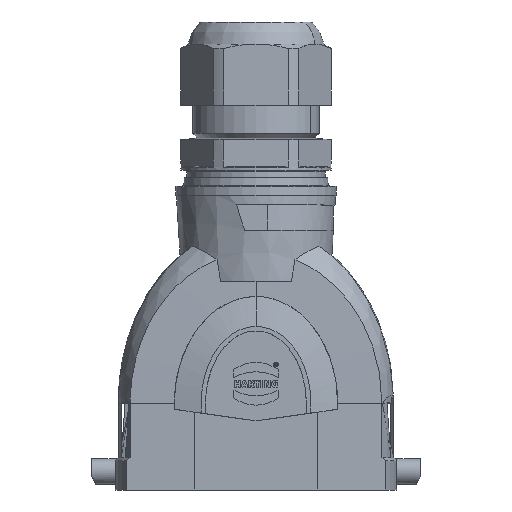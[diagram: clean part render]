
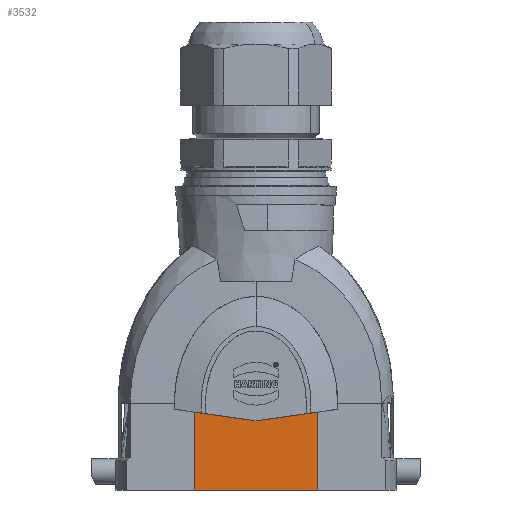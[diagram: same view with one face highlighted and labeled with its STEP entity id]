
A CAD part, front view. The second image highlights one B-rep face of the part: STEP entity #3532.
In plain terms, the highlighted planar face has unit normal (0, -1, 0).
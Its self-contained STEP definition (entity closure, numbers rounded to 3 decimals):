
#1368=FACE_OUTER_BOUND('',#4759,.T.);
#2148=LINE('',#17850,#2894);
#2196=LINE('',#18432,#2943);
#2199=LINE('',#18438,#2946);
#2200=LINE('',#18440,#2947);
#2201=LINE('',#18442,#2948);
#2894=VECTOR('',#13265,1.);
#2943=VECTOR('',#13364,1.);
#2946=VECTOR('',#13369,1.);
#2947=VECTOR('',#13370,1.);
#2948=VECTOR('',#13371,1.);
#3532=ADVANCED_FACE('',(#1368),#4038,.F.);
#4038=PLANE('',#12159);
#4759=EDGE_LOOP('',(#5954,#5955,#5956,#5957,#5958));
#5954=ORIENTED_EDGE('',*,*,#10162,.T.);
#5955=ORIENTED_EDGE('',*,*,#10068,.T.);
#5956=ORIENTED_EDGE('',*,*,#10165,.T.);
#5957=ORIENTED_EDGE('',*,*,#10166,.T.);
#5958=ORIENTED_EDGE('',*,*,#10167,.T.);
#8878=VERTEX_POINT('',#17849);
#8879=VERTEX_POINT('',#17851);
#8937=VERTEX_POINT('',#18433);
#8939=VERTEX_POINT('',#18439);
#8940=VERTEX_POINT('',#18441);
#10068=EDGE_CURVE('',#8879,#8878,#2148,.T.);
#10162=EDGE_CURVE('',#8937,#8879,#2196,.T.);
#10165=EDGE_CURVE('',#8878,#8939,#2199,.T.);
#10166=EDGE_CURVE('',#8939,#8940,#2200,.T.);
#10167=EDGE_CURVE('',#8940,#8937,#2201,.T.);
#12159=AXIS2_PLACEMENT_3D('',#18443,#13372,#13373);
#13265=DIRECTION('',(1.,0.,0.));
#13364=DIRECTION('',(0.,0.,-1.));
#13369=DIRECTION('',(0.,0.,1.));
#13370=DIRECTION('',(-0.99,0.,-0.139));
#13371=DIRECTION('',(-0.99,0.,0.139));
#13372=DIRECTION('',(0.,1.,0.));
#13373=DIRECTION('',(0.,0.,1.));
#17849=CARTESIAN_POINT('',(20.92,-22.5,-10.15));
#17850=CARTESIAN_POINT('',(-20.92,-22.5,-10.15));
#17851=CARTESIAN_POINT('',(-20.92,-22.5,-10.15));
#18432=CARTESIAN_POINT('',(-20.92,-22.5,19.3));
#18433=CARTESIAN_POINT('',(-20.92,-22.5,16.239));
#18438=CARTESIAN_POINT('',(20.92,-22.5,19.3));
#18439=CARTESIAN_POINT('',(20.92,-22.5,16.239));
#18440=CARTESIAN_POINT('',(21.342,-22.5,16.298));
#18441=CARTESIAN_POINT('',(0.,-22.5,13.299));
#18442=CARTESIAN_POINT('',(-21.342,-22.5,16.298));
#18443=CARTESIAN_POINT('',(-20.92,-22.5,19.3));
